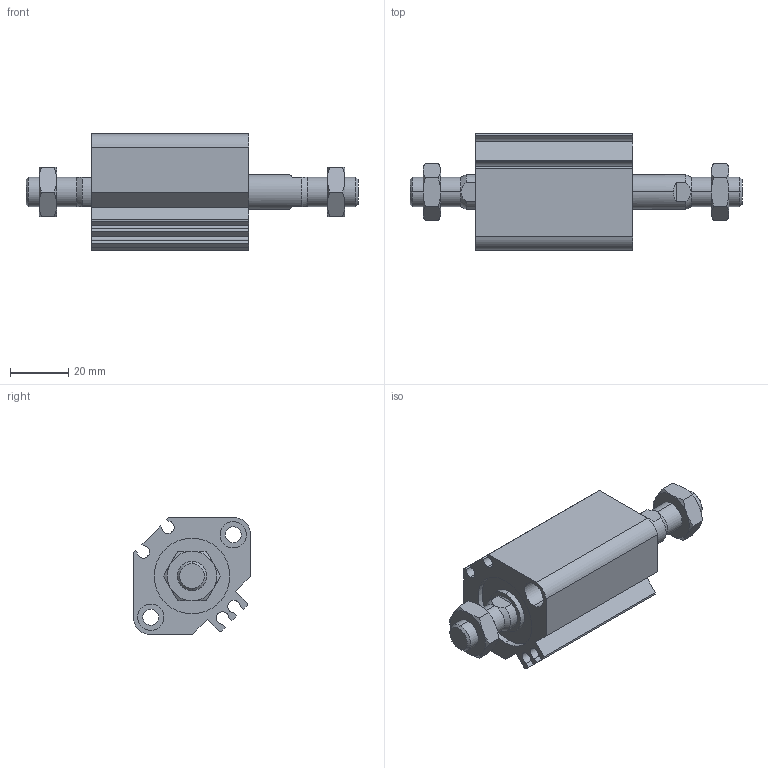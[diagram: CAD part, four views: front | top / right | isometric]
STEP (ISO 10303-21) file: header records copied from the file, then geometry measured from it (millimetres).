
FILE_DESCRIPTION (( 'STEP AP203' ), '1' );
FILE_NAME ('CCMB25-15M-P.STEP', '2020-08-10T11:27:44', ( '' ), ( '' ), 'SwSTEP 2.0', 'SolidWorks 2019', '' );
FILE_SCHEMA (( 'CONFIG_CONTROL_DESIGN' ));
Length unit declared in the file: millimetre
Products named in the file (1): CCMB25-15M-P
Bounding box: 114 x 40 x 40 mm (x, y, z)
Volume: 69189.9 mm3; surface area: 26779.7 mm2
Topology: 4 solids, 4 shells, 166 faces, 384 edges, 240 vertices
Faces by surface type: plane 66, cylinder 56, cone 44
Entity records: 5403 total; most frequent: CARTESIAN_POINT 1543, DIRECTION 806, ORIENTED_EDGE 768, EDGE_CURVE 384, AXIS2_PLACEMENT_3D 319, VERTEX_POINT 240, EDGE_LOOP 190, VECTOR 168
